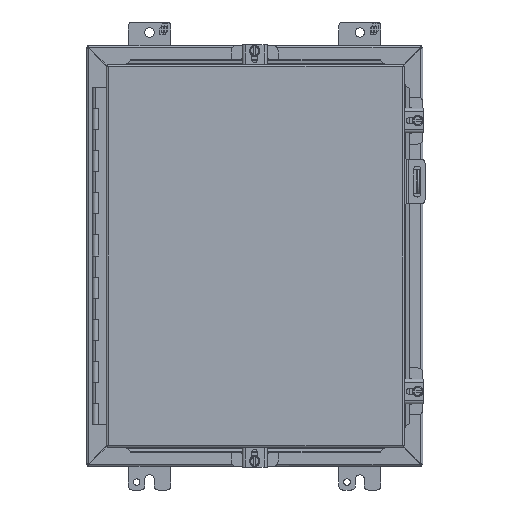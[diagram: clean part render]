
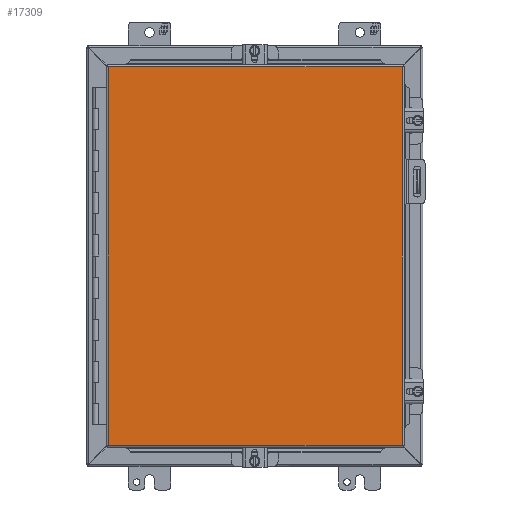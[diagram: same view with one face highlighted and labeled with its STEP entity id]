
A CAD part, front view. The second image highlights one B-rep face of the part: STEP entity #17309.
In plain terms, the highlighted planar face has unit normal (0, -1, 0).
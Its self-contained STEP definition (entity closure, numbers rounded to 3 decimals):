
#2198=ORIENTED_EDGE('',*,*,#7038,.T.);
#2199=ORIENTED_EDGE('',*,*,#7039,.T.);
#2200=ORIENTED_EDGE('',*,*,#7040,.T.);
#2201=ORIENTED_EDGE('',*,*,#7041,.T.);
#7038=EDGE_CURVE('',#9514,#9515,#11169,.T.);
#7039=EDGE_CURVE('',#9515,#9516,#11170,.T.);
#7040=EDGE_CURVE('',#9516,#9517,#11171,.T.);
#7041=EDGE_CURVE('',#9517,#9514,#11172,.T.);
#9514=VERTEX_POINT('',#24679);
#9515=VERTEX_POINT('',#24680);
#9516=VERTEX_POINT('',#24682);
#9517=VERTEX_POINT('',#24684);
#11169=LINE('',#24678,#12884);
#11170=LINE('',#24681,#12885);
#11171=LINE('',#24683,#12886);
#11172=LINE('',#24685,#12887);
#12884=VECTOR('',#20289,1000.);
#12885=VECTOR('',#20290,1000.);
#12886=VECTOR('',#20291,1000.);
#12887=VECTOR('',#20292,1000.);
#14529=EDGE_LOOP('',(#2198,#2199,#2200,#2201));
#15636=FACE_BOUND('',#14529,.T.);
#16669=PLANE('',#18516);
#17309=ADVANCED_FACE('',(#15636),#16669,.T.);
#18516=AXIS2_PLACEMENT_3D('',#24677,#20287,#20288);
#20287=DIRECTION('',(0.,-1.,0.));
#20288=DIRECTION('',(0.,0.,-1.));
#20289=DIRECTION('',(0.,0.,-1.));
#20290=DIRECTION('',(1.,0.,0.));
#20291=DIRECTION('',(0.,0.,1.));
#20292=DIRECTION('',(-1.,0.,0.));
#24677=CARTESIAN_POINT('',(-177.444,0.,-228.46));
#24678=CARTESIAN_POINT('',(-177.444,0.,228.46));
#24679=CARTESIAN_POINT('',(-177.444,0.,228.46));
#24680=CARTESIAN_POINT('',(-177.444,0.,-228.46));
#24681=CARTESIAN_POINT('',(-177.444,0.,-228.46));
#24682=CARTESIAN_POINT('',(177.444,0.,-228.46));
#24683=CARTESIAN_POINT('',(177.444,0.,-228.46));
#24684=CARTESIAN_POINT('',(177.444,0.,228.46));
#24685=CARTESIAN_POINT('',(177.444,0.,228.46));
